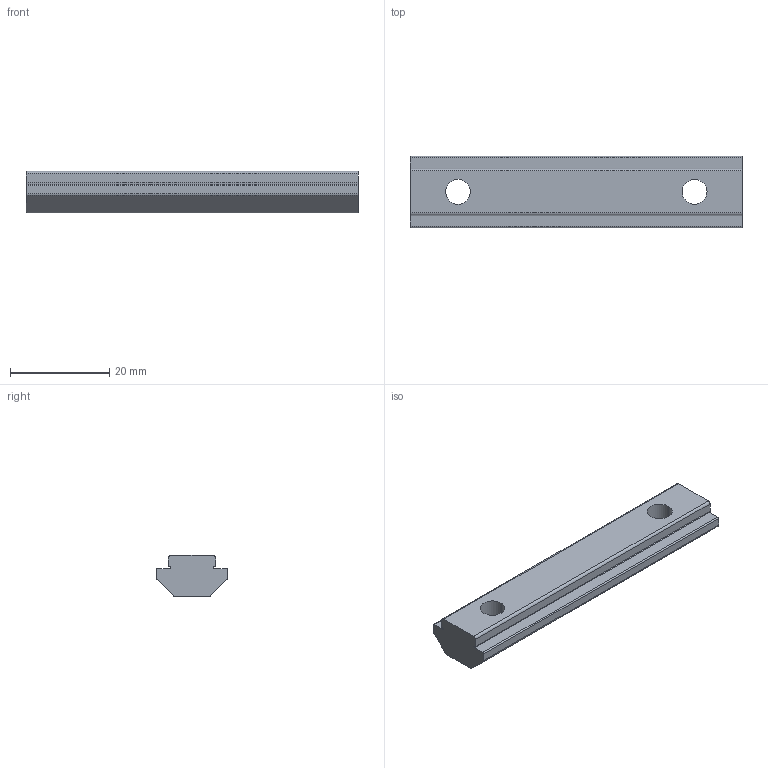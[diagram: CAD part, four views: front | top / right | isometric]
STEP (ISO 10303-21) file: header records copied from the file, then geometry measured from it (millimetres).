
FILE_DESCRIPTION((''),'2;1');
FILE_NAME('300150M','2023-02-28T',('jenni.wallner'),(''),'PRO/ENGINEER BY PARAMETRIC TECHNOLOGY CORPORATION, 2012420','PRO/ENGINEER BY PARAMETRIC TECHNOLOGY CORPORATION, 2012420','');
FILE_SCHEMA(('CONFIG_CONTROL_DESIGN'));
Length unit declared in the file: inch
Products named in the file (1): 300150M
Bounding box: 66.8 x 14.3 x 8.33 mm (x, y, z)
Volume: 5886.8 mm3; surface area: 3143 mm2
Topology: 1 solids, 1 shells, 28 faces, 78 edges, 52 vertices
Faces by surface type: cylinder 14, plane 14
Entity records: 958 total; most frequent: DIRECTION 162, CARTESIAN_POINT 158, ORIENTED_EDGE 156, EDGE_CURVE 78, AXIS2_PLACEMENT_3D 56, VERTEX_POINT 52, VECTOR 50, LINE 50
